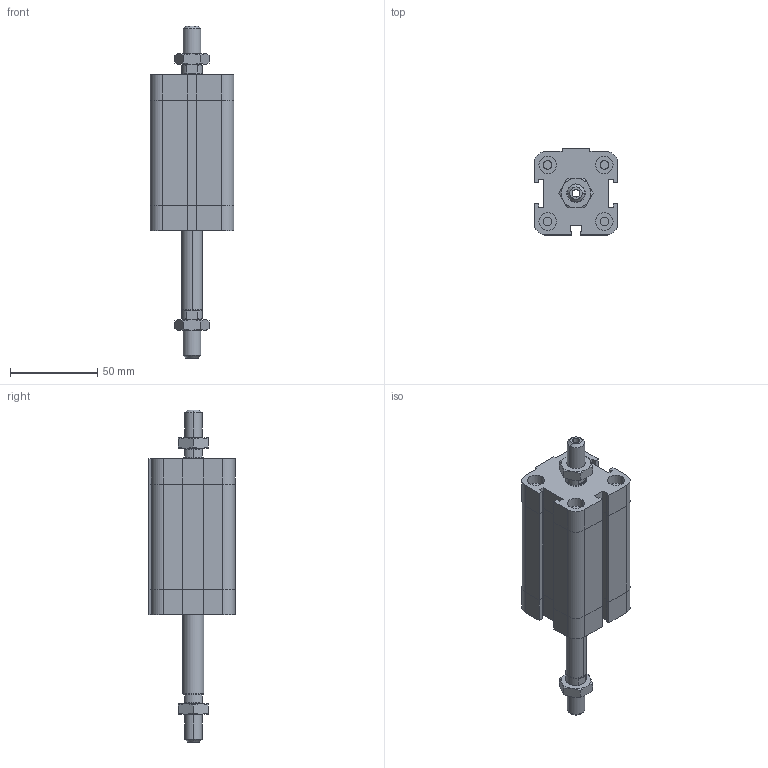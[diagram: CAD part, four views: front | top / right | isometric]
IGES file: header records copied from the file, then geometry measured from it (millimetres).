
Global section: file name: No Iges File Name specified; native system: Autodesk Inventor 2009; preprocessor: AutoDesk Inventor Iges Exporter R2009; author: maffial1; date: 20090420.142511; units: millimetre
Bounding box: 48 x 49.5 x 190.5 mm (x, y, z)
Volume: 190057.8 mm3; surface area: 43113.2 mm2
Topology: 4 solids, 4 shells, 262 faces, 580 edges, 346 vertices
Faces by surface type: plane 129, bspline 53, cone 38, cylinder 22, revolution 20
